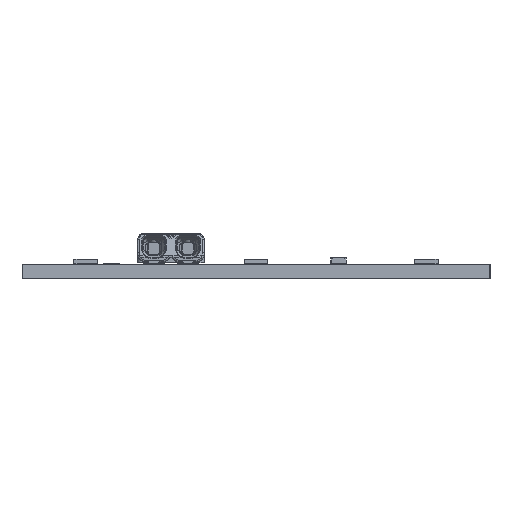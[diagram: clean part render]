
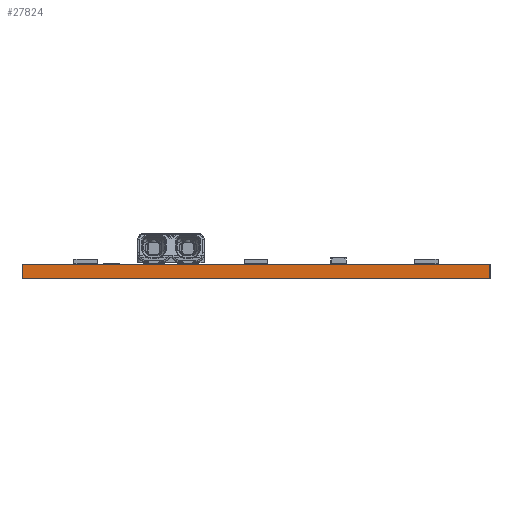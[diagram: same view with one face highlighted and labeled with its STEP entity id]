
A CAD part, left-side view. The second image highlights one B-rep face of the part: STEP entity #27824.
In plain terms, the highlighted planar face has unit normal (-1, 0, 0).
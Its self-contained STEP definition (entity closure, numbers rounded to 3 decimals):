
#26369=DIRECTION('',(0.,0.,-1.));
#26370=VECTOR('',#26369,1.65);
#26371=CARTESIAN_POINT('',(-140.,-27.5,1.65));
#26372=LINE('',#26371,#26370);
#26397=DIRECTION('',(0.,1.,0.));
#26398=VECTOR('',#26397,55.);
#26399=CARTESIAN_POINT('',(-140.,-27.5,1.65));
#26400=LINE('',#26399,#26398);
#26404=DIRECTION('',(0.,-1.,0.));
#26405=VECTOR('',#26404,55.);
#26406=CARTESIAN_POINT('',(-140.,27.5,0.));
#26407=LINE('',#26406,#26405);
#26418=DIRECTION('',(0.,0.,1.));
#26419=VECTOR('',#26418,1.65);
#26420=CARTESIAN_POINT('',(-140.,27.5,0.));
#26421=LINE('',#26420,#26419);
#27411=CARTESIAN_POINT('',(-140.,27.5,0.));
#27412=CARTESIAN_POINT('',(-140.,27.5,1.65));
#27413=VERTEX_POINT('',#27411);
#27414=VERTEX_POINT('',#27412);
#27449=CARTESIAN_POINT('',(-140.,-27.5,0.));
#27450=VERTEX_POINT('',#27449);
#27467=CARTESIAN_POINT('',(-140.,-27.5,1.65));
#27468=VERTEX_POINT('',#27467);
#27811=CARTESIAN_POINT('',(-140.,27.5,1.65));
#27812=DIRECTION('',(-1.,0.,0.));
#27813=DIRECTION('',(0.,0.,1.));
#27814=AXIS2_PLACEMENT_3D('',#27811,#27812,#27813);
#27815=PLANE('',#27814);
#27817=ORIENTED_EDGE('',*,*,#27816,.T.);
#27819=ORIENTED_EDGE('',*,*,#27818,.F.);
#27820=ORIENTED_EDGE('',*,*,#27795,.T.);
#27821=ORIENTED_EDGE('',*,*,#27639,.F.);
#27822=EDGE_LOOP('',(#27817,#27819,#27820,#27821));
#27823=FACE_OUTER_BOUND('',#27822,.F.);
#27639=EDGE_CURVE('',#27413,#27450,#26407,.T.);
#27795=EDGE_CURVE('',#27468,#27450,#26372,.T.);
#27816=EDGE_CURVE('',#27413,#27414,#26421,.T.);
#27818=EDGE_CURVE('',#27468,#27414,#26400,.T.);
#27824=ADVANCED_FACE('',(#27823),#27815,.T.);
